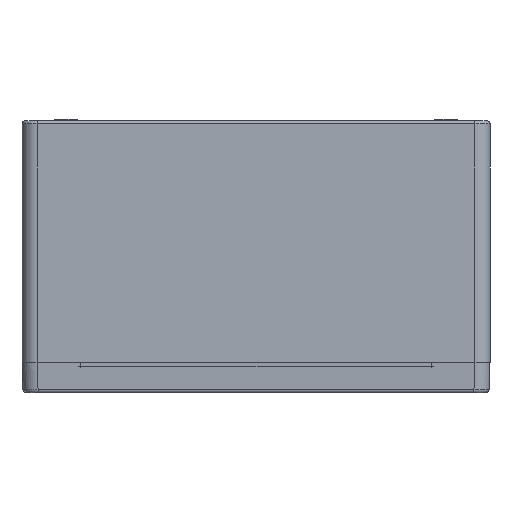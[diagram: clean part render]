
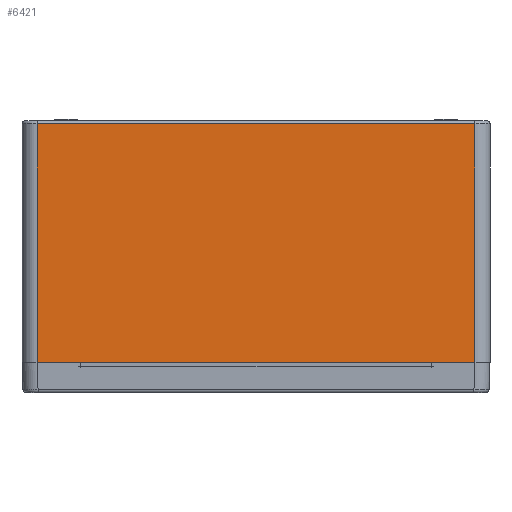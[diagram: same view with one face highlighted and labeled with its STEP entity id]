
A CAD part, left-side view. The second image highlights one B-rep face of the part: STEP entity #6421.
In plain terms, the highlighted planar face has unit normal (-1, 0, 0).
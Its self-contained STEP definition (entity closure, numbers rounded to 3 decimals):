
#1702 = PLANE ( 'NONE',  #5306 ) ;
#3668 = LINE ( 'NONE', #41536, #8194 ) ;
#4675 = DIRECTION ( 'NONE',  ( 1., 0., 0. ) ) ;
#5165 = VECTOR ( 'NONE', #13336, 1000. ) ;
#5306 = AXIS2_PLACEMENT_3D ( 'NONE', #37087, #4675, #40069 ) ;
#6421 = ADVANCED_FACE ( 'NONE', ( #33510 ), #1702, .F. ) ;
#6659 = VERTEX_POINT ( 'NONE', #12383 ) ;
#6908 = CARTESIAN_POINT ( 'NONE',  ( -300., 145., 0. ) ) ;
#8194 = VECTOR ( 'NONE', #21944, 1000. ) ;
#10879 = ORIENTED_EDGE ( 'NONE', *, *, #39141, .T. ) ;
#11914 = LINE ( 'NONE', #31653, #36659 ) ;
#12383 = CARTESIAN_POINT ( 'NONE',  ( -300., -145., 158. ) ) ;
#12577 = DIRECTION ( 'NONE',  ( 0., 0., 1. ) ) ;
#12866 = CARTESIAN_POINT ( 'NONE',  ( -300., -145., 0. ) ) ;
#13336 = DIRECTION ( 'NONE',  ( 0., 0., -1. ) ) ;
#17296 = VERTEX_POINT ( 'NONE', #12866 ) ;
#19576 = VERTEX_POINT ( 'NONE', #6908 ) ;
#20478 = VERTEX_POINT ( 'NONE', #38793 ) ;
#21910 = VECTOR ( 'NONE', #24503, 1000. ) ;
#21944 = DIRECTION ( 'NONE',  ( 0., 1., 0. ) ) ;
#24503 = DIRECTION ( 'NONE',  ( 0., -1., 0. ) ) ;
#24643 = CARTESIAN_POINT ( 'NONE',  ( -300., 155., 0. ) ) ;
#26107 = ORIENTED_EDGE ( 'NONE', *, *, #31803, .T. ) ;
#28404 = ORIENTED_EDGE ( 'NONE', *, *, #37465, .T. ) ;
#29439 = CARTESIAN_POINT ( 'NONE',  ( -300., 145., 160. ) ) ;
#31517 = LINE ( 'NONE', #24643, #21910 ) ;
#31653 = CARTESIAN_POINT ( 'NONE',  ( -300., -145., 160. ) ) ;
#31803 = EDGE_CURVE ( 'NONE', #17296, #6659, #11914, .T. ) ;
#33510 = FACE_OUTER_BOUND ( 'NONE', #41214, .T. ) ;
#36659 = VECTOR ( 'NONE', #12577, 1000. ) ;
#36921 = LINE ( 'NONE', #29439, #5165 ) ;
#37037 = ORIENTED_EDGE ( 'NONE', *, *, #39239, .T. ) ;
#37087 = CARTESIAN_POINT ( 'NONE',  ( -300., 155., 160. ) ) ;
#37465 = EDGE_CURVE ( 'NONE', #19576, #17296, #31517, .T. ) ;
#38793 = CARTESIAN_POINT ( 'NONE',  ( -300., 145., 158. ) ) ;
#39141 = EDGE_CURVE ( 'NONE', #6659, #20478, #3668, .T. ) ;
#39239 = EDGE_CURVE ( 'NONE', #20478, #19576, #36921, .T. ) ;
#40069 = DIRECTION ( 'NONE',  ( 0., 1., 0. ) ) ;
#41214 = EDGE_LOOP ( 'NONE', ( #26107, #10879, #37037, #28404 ) ) ;
#41536 = CARTESIAN_POINT ( 'NONE',  ( -300., 145., 158. ) ) ;
